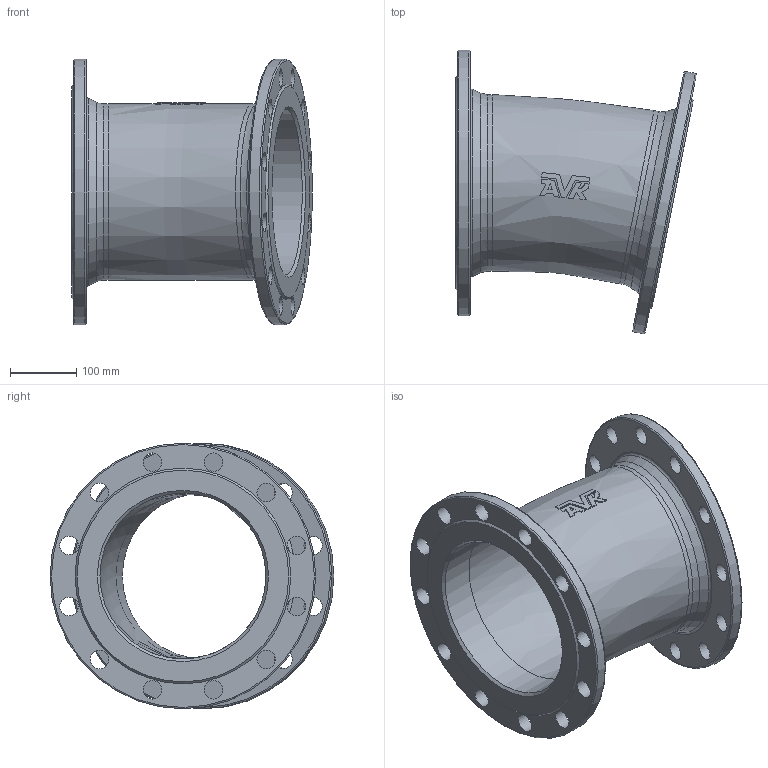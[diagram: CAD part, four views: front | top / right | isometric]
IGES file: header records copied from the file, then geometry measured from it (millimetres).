
Start section: SolidWorks IGES file using analytic representation for surfaces
Global section: file name: \\avksan2\techshare\PBM outline export from Enovia\O_712_0110_DN250_1X_REV01.igs; native system: SolidWorks 2022; preprocessor: SolidWorks 2022; author: pbm; date: 240815.105201; units: millimetre
Bounding box: 362.55 x 427.41 x 400 mm (x, y, z)
Surface area: 830894.7 mm2 (no closed solid volume)
Topology: 0 solids, 0 shells, 93 faces, 451 edges, 405 vertices
Faces by surface type: revolution 52, bspline 41
